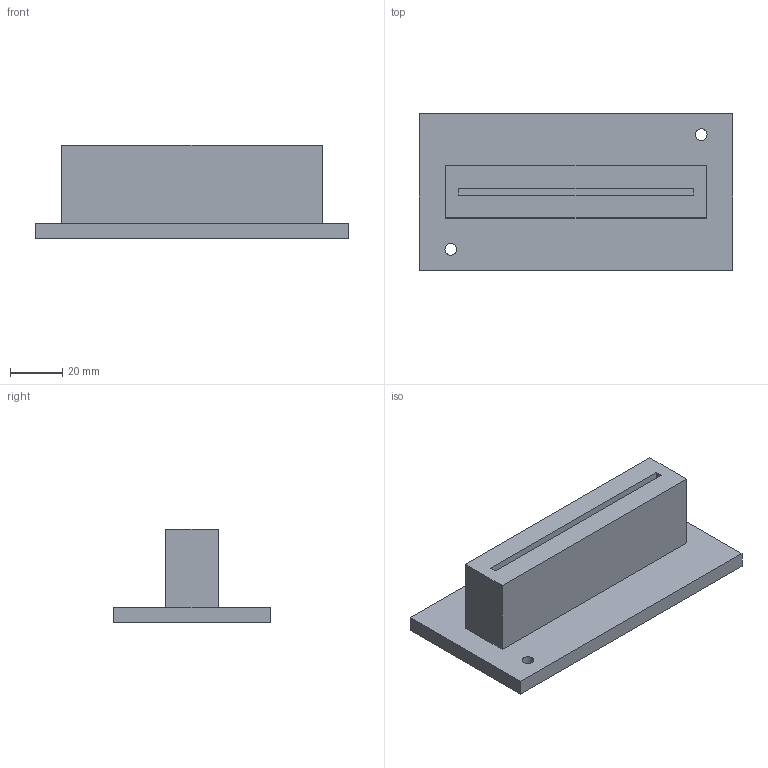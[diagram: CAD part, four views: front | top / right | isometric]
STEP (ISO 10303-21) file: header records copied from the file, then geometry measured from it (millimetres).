
FILE_DESCRIPTION(('Open CASCADE Model'),'2;1');
FILE_NAME('Open CASCADE Shape Model','2026-10-21T16:53:51',('Author'),( 'Open CASCADE'),'Open CASCADE STEP processor 7.9','Open CASCADE 7.9' ,'Unknown');
FILE_SCHEMA(('AUTOMOTIVE_DESIGN { 1 0 10303 214 1 1 1 1 }'));
Length unit declared in the file: millimetre
Products named in the file (1): Open CASCADE STEP translator 7.9 2
Bounding box: 120 x 60 x 36 mm (x, y, z)
Volume: 96691.1 mm3; surface area: 28866.4 mm2
Topology: 1 solids, 1 shells, 18 faces, 42 edges, 28 vertices
Faces by surface type: plane 16, cylinder 2
Full cylindrical faces by diameter (mm): 4.5 x2
Entity records: 1086 total; most frequent: CARTESIAN_POINT 197, DIRECTION 164, LINE 118, VECTOR 118, ORIENTED_EDGE 84, PCURVE 84, DEFINITIONAL_REPRESENTATION 84, EDGE_CURVE 42
